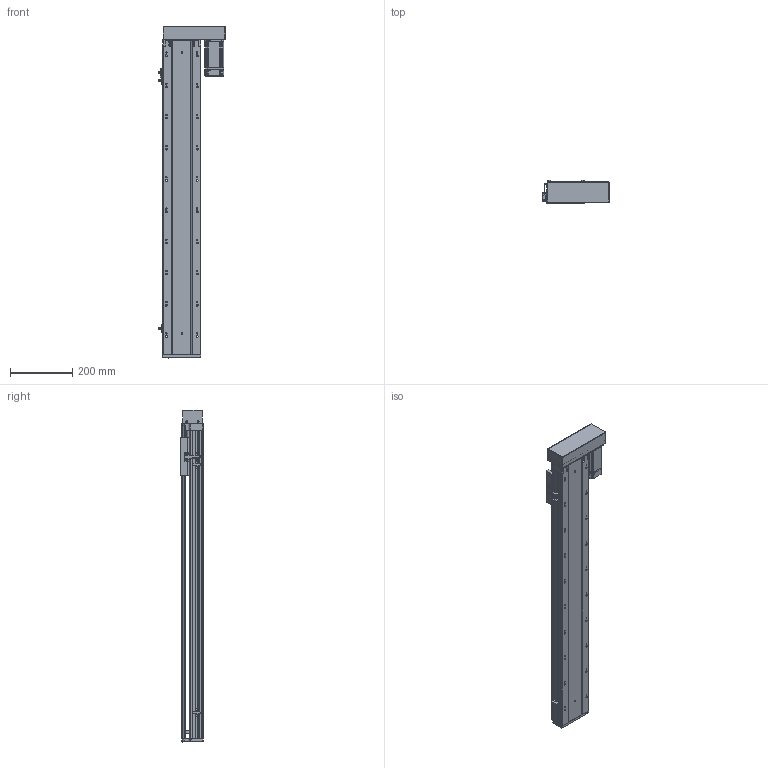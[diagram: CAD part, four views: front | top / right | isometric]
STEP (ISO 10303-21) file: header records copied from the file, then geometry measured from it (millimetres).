
FILE_DESCRIPTION (( 'STEP AP203' ), '1' );
FILE_NAME ('RY120-L1620-300-RK.SLDASM_800.step', '2021-02-22T02:30:18', ( '盈信电脑' ), ( '东莞市道滘镇水果街19号' ), 'SwSTEP 2.0', 'SolidWorks 2012', '' );
FILE_SCHEMA (( 'CONFIG_CONTROL_DESIGN' ));
Products named in the file (14): RY120-L1620-300-RK.SLDASM_800; RY120蛌殏萇儂欶; RY120酘殏萇儂假蚾啣; 15; 侂狟400W侜督萇儂; 滅袉蝶18-24; RY120转拆电端丝杆支撑座; RY120外置感应片(140共用）; RY120綴裔啣; 滅袉蝶18-10; RY120臏賑輸; 覜茼ん672; RY120-300-RK蛌殏倰第菁釱_800; RY120-300-RK蛌殏倰第奻裔啣_800
Assembly tree (16 placements, depth 3):
  RY120-L1620-300-RK.SLDASM_800
    RY120-300-RK蛌殏倰第菁釱_800
    RY120-300-RK蛌殏倰第奻裔啣_800
    RY120臏賑輸
    RY120綴裔啣
    覜茼ん672  x3
    滅袉蝶18-10
    滅袉蝶18-24  x2
    RY120外置感应片(140共用）
    RY120转拆电端丝杆支撑座
    RY120酘殏萇儂假蚾啣
    侂狟400W侜督萇儂
      15
    RY120蛌殏萇儂欶
Bounding box: 214.4 x 73 x 1064 mm (x, y, z)
Volume: 3146131.7 mm3; surface area: 1142745.1 mm2
Topology: 16 solids, 16 shells, 2558 faces, 7071 edges, 4534 vertices
Faces by surface type: plane 1246, cylinder 986, cone 221, bspline 105
Entity records: 85704 total; most frequent: CARTESIAN_POINT 24651, ORIENTED_EDGE 12838, DIRECTION 11731, EDGE_CURVE 6419, VERTEX_POINT 4202, AXIS2_PLACEMENT_3D 3919, LINE 3893, VECTOR 3893
